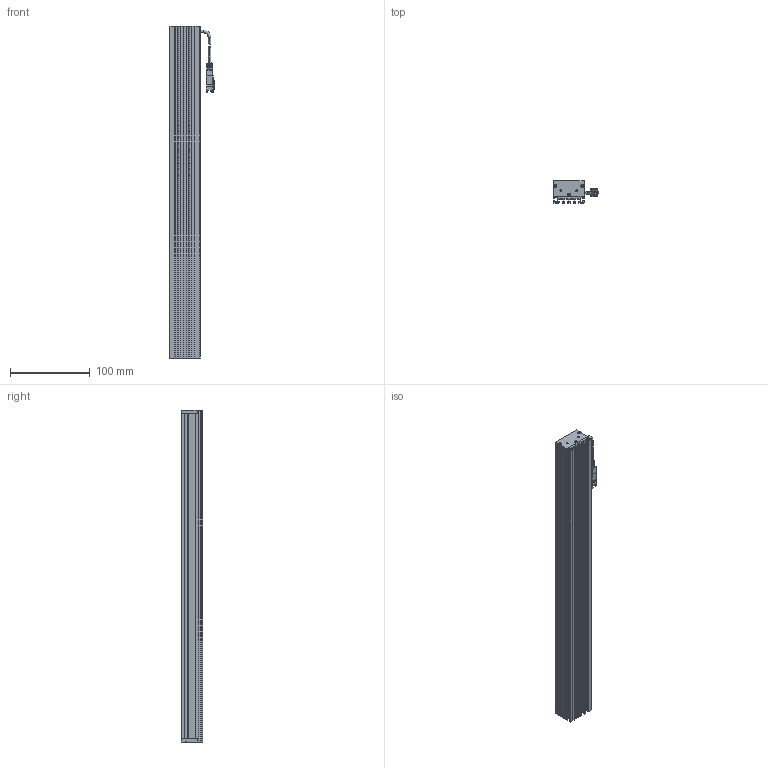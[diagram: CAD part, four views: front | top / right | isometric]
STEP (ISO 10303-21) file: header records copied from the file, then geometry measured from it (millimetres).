
FILE_DESCRIPTION (( 'STEP AP203' ), '1' );
FILE_NAME ('CK-BL41738.STEP', '2026-01-28T03:17:51', ( '' ), ( '' ), 'SwSTEP 2.0', 'SolidWorks 2022', '' );
FILE_SCHEMA (( 'CONFIG_CONTROL_DESIGN' ));
Length unit declared in the file: millimetre
Products named in the file (6): CK-BL41738; CK-BL41738-003A; CK41738-001A; 十字沉头螺丝 M2x10; CK-BL41738-002A; 光源线
Assembly tree (11 placements, depth 2):
  CK-BL41738
    CK41738-001A
    CK-BL41738-002A  x2
    CK-BL41738-003A
    光源线
    十字沉头螺丝 M2x10  x6
Bounding box: 55.84 x 27 x 417 mm (x, y, z)
Volume: 172213.1 mm3; surface area: 148569.1 mm2
Topology: 13 solids, 13 shells, 641 faces, 1692 edges, 1082 vertices
Faces by surface type: plane 353, cylinder 210, cone 46, bspline 32
Entity records: 16373 total; most frequent: CARTESIAN_POINT 3399, ORIENTED_EDGE 2598, DIRECTION 2515, EDGE_CURVE 1299, LINE 875, VECTOR 875, VERTEX_POINT 846, AXIS2_PLACEMENT_3D 820
